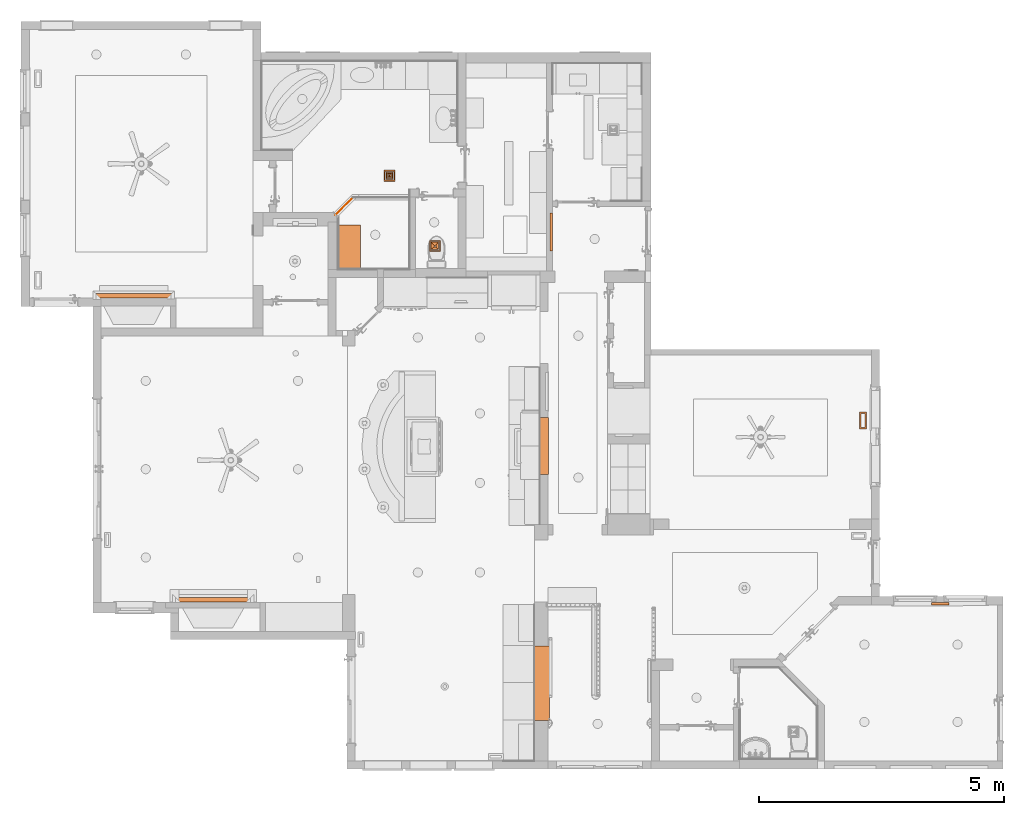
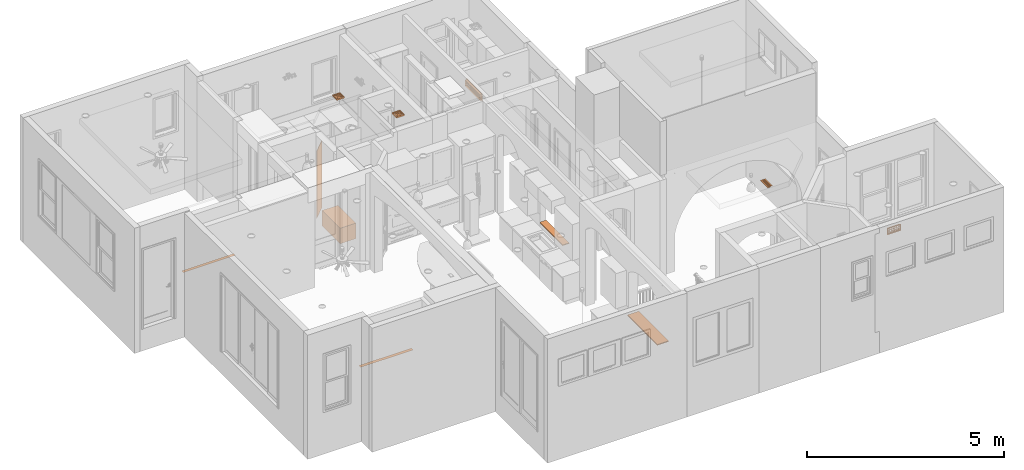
# One storey, part 60 of 77: 11 proxies.
"""IFC2X3 building model written with IfcOpenShell, lengths in inches."""

import ifcopenshell
import ifcopenshell.guid

model = None  # the IFC model being written
_history = None  # IfcOwnerHistory: only IFC2X3 demands one
_inside = {}  # id of a spatial element -> (the spatial element, [elements in it])
_under = {}  # id of a project, library or spatial element -> (it, [spatial elements below it])
_declared = {}  # id of a project -> (the project, [libraries it declares])
_typed = {}  # id of a type object -> (the type object, [elements of that type])
_made_of = {}  # id of a material, layer set ... -> (it, [elements and type objects made of it])


def new_model(schema):
    """Start an empty IFC model of exactly this schema.

    Asked for "IFC4X3", IfcOpenShell would pick the latest addendum, in which some entities
    have other attributes; the version numbers below select the first issue.
    IFC2X3 requires an IfcOwnerHistory on every rooted entity: one is made here for all.
    """
    global model, _history
    if schema == "IFC4X3":
        model = ifcopenshell.file(schema_version=(4, 3, 0, 0))
    else:
        model = ifcopenshell.file(schema=schema)
    _inside.clear()
    _under.clear()
    _declared.clear()
    _typed.clear()
    _made_of.clear()
    _history = None
    if model.schema == "IFC2X3":
        org = make("IfcOrganization", Name="unknown")
        user = make(
            "IfcPersonAndOrganization",
            ThePerson=make("IfcPerson", FamilyName="unknown"),
            TheOrganization=org,
        )
        app = make(
            "IfcApplication",
            ApplicationDeveloper=org,
            Version="unknown",
            ApplicationFullName="unknown",
            ApplicationIdentifier="unknown",
        )
        _history = make(
            "IfcOwnerHistory",
            OwningUser=user,
            OwningApplication=app,
            ChangeAction="ADDED",
            CreationDate=0,
        )
    return model


def make(cls, **values):
    """One entity of the class cls with the attributes given. An attribute that is None is left unset."""
    return model.create_entity(
        cls, **{name: value for name, value in values.items() if value is not None}
    )


def entity(cls, *values):
    """Any entity or typed value of the class cls, its attributes in the order of the schema. None: left unset."""
    e = model.create_entity(cls)
    for i, value in enumerate(values):
        if value is not None:
            e[i] = value
    return e


def rooted(cls, **values):
    """An entity with a GlobalId (a new one), such as an element, a storey or a relation."""
    return make(cls, GlobalId=ifcopenshell.guid.new(), OwnerHistory=_history, **values)


def si_unit(unit_type, name, prefix=None):
    """IfcSIUnit, for example si_unit("LENGTHUNIT", "METRE", prefix="MILLI")."""
    return make("IfcSIUnit", UnitType=unit_type, Prefix=prefix, Name=name)


def converted_unit(unit_type, name, factor, base, dimensions=None, offset=None):
    """IfcConversionBasedUnit, such as the inch: factor (a typed value) times the base unit."""
    return make(
        "IfcConversionBasedUnit"
        if offset is None
        else "IfcConversionBasedUnitWithOffset",
        ConversionOffset=offset,
        Dimensions=None
        if dimensions is None
        else entity("IfcDimensionalExponents", *dimensions),
        UnitType=unit_type,
        Name=name,
        ConversionFactor=make(
            "IfcMeasureWithUnit", ValueComponent=factor, UnitComponent=base
        ),
    )


def derived_unit(unit_type, elements):
    """IfcDerivedUnit: a product of units, each with its exponent."""
    return make(
        "IfcDerivedUnit",
        Elements=[
            make("IfcDerivedUnitElement", Unit=unit, Exponent=power)
            for unit, power in elements
        ],
        UnitType=unit_type,
    )


def money_unit(currency):
    """IfcMonetaryUnit."""
    return make("IfcMonetaryUnit", Currency=currency)


def assignment(units):
    """IfcUnitAssignment: the units of a project."""
    return None if units is None else make("IfcUnitAssignment", Units=units)


def point(xyz):
    """IfcCartesianPoint."""
    return None if xyz is None else make("IfcCartesianPoint", Coordinates=xyz)


def direction(xyz):
    """IfcDirection."""
    return None if xyz is None else make("IfcDirection", DirectionRatios=xyz)


def frame(location, z_axis=None, x_axis=None):
    """IfcAxis2Placement3D, a coordinate frame: its origin and axes. An axis left out is left unset."""
    return make(
        "IfcAxis2Placement3D",
        Location=point(location),
        Axis=direction(z_axis),
        RefDirection=direction(x_axis),
    )


def origin_with_axes():
    """The frame at (0, 0, 0) with the z axis (0, 0, 1) and the x axis (1, 0, 0) written out."""
    return frame((0.0, 0.0, 0.0), z_axis=(0.0, 0.0, 1.0), x_axis=(1.0, 0.0, 0.0))


def place(relative_to, where):
    """IfcLocalPlacement: puts the frame where relative to a parent placement (None: the world)."""
    return make(
        "IfcLocalPlacement", PlacementRelTo=relative_to, RelativePlacement=where
    )


def context(
    kind, dimensions, precision=None, world=None, true_north=None, identifier=None
):
    """IfcGeometricRepresentationContext, for example the 3D "Model" context."""
    return make(
        "IfcGeometricRepresentationContext",
        ContextIdentifier=identifier,
        ContextType=kind,
        CoordinateSpaceDimension=dimensions,
        Precision=precision,
        WorldCoordinateSystem=world,
        TrueNorth=true_north,
    )


def subcontext(parent, identifier, kind, view, scale=None):
    """IfcGeometricRepresentationSubContext, for example "Body" below "Model"."""
    return make(
        "IfcGeometricRepresentationSubContext",
        ContextIdentifier=identifier,
        ContextType=kind,
        ParentContext=parent,
        TargetScale=scale,
        TargetView=view,
    )


def project(units=None, contexts=None):
    """IfcProject with its units and contexts."""
    return rooted(
        "IfcProject",
        Name="project",
        RepresentationContexts=contexts,
        UnitsInContext=assignment(units),
    )


def spatial(cls, under=None, at=None, **own):
    """A site, building, storey or space (cls), placed at a placement, below another one or the project."""
    s = rooted(cls, ObjectPlacement=at, **own)
    if under is not None:
        _under.setdefault(under.id(), (under, []))[1].append(s)
    return s


def faces_of(points, faces, orient=None, outer=None):
    """IfcFace entities. A face is a list of loops; a loop is a list of indices into points, from 0.

    orient and outer hold one flag for each loop. By default every Orientation is true, the
    first loop of a face is its IfcFaceOuterBound and the others are IfcFaceBound.
    """
    made = []
    for i, loops in enumerate(faces):
        bounds = []
        for j, loop in enumerate(loops):
            is_outer = j == 0 if outer is None else outer[i][j]
            bounds.append(
                make(
                    "IfcFaceOuterBound" if is_outer else "IfcFaceBound",
                    Bound=make("IfcPolyLoop", Polygon=[points[k] for k in loop]),
                    Orientation=True if orient is None else orient[i][j],
                )
            )
        made.append(make("IfcFace", Bounds=bounds))
    return made


def open_shell(faces, orient=None, outer=None):
    """The faces of one IfcOpenShell. surface_model builds it on its shared points."""
    return ("IfcOpenShell", faces, orient, outer)


def faceted_brep(points, faces, orient=None, outer=None, voids=None):
    """IfcFacetedBrep: a solid bounded by flat faces; with voids (closed shells), ...WithVoids."""
    shared = [point(p) for p in points]
    hull = make("IfcClosedShell", CfsFaces=faces_of(shared, faces, orient, outer))
    if voids is None:
        return make("IfcFacetedBrep", Outer=hull)
    return make(
        "IfcFacetedBrepWithVoids",
        Outer=hull,
        Voids=[
            make(cls, CfsFaces=faces_of(shared, fs, o, b)) for cls, fs, o, b in voids
        ],
    )


def surface_model(cls, points, shells):
    """IfcFaceBasedSurfaceModel or IfcShellBasedSurfaceModel (cls): surfaces that need not close."""
    shared = [point(p) for p in points]
    made = [make(c, CfsFaces=faces_of(shared, fs, o, b)) for c, fs, o, b in shells]
    if cls == "IfcFaceBasedSurfaceModel":
        return make(cls, FbsmFaces=made)
    return make(cls, SbsmBoundary=made)


def shape(context_of_items, identifier, shape_type, items):
    """IfcShapeRepresentation: the items that make up one representation, for example the "Body"."""
    return make(
        "IfcShapeRepresentation",
        ContextOfItems=context_of_items,
        RepresentationIdentifier=identifier,
        RepresentationType=shape_type,
        Items=items,
    )


def source(mapping_origin, context_of_items, identifier, shape_type, items):
    """IfcRepresentationMap: a shape defined once, which mapped items show again and again."""
    return make(
        "IfcRepresentationMap",
        MappingOrigin=mapping_origin,
        MappedRepresentation=shape(context_of_items, identifier, shape_type, items),
    )


def transform(
    local_origin,
    x_axis=None,
    y_axis=None,
    z_axis=None,
    scale=None,
    scale2=None,
    scale3=None,
    uniform=True,
):
    """IfcCartesianTransformationOperator3D, or its non-uniform kind. x_axis, y_axis, z_axis: its Axis1, 2, 3."""
    if uniform:
        return make(
            "IfcCartesianTransformationOperator3D",
            Axis1=direction(x_axis),
            Axis2=direction(y_axis),
            LocalOrigin=point(local_origin),
            Scale=scale,
            Axis3=direction(z_axis),
        )
    return make(
        "IfcCartesianTransformationOperator3DnonUniform",
        Axis1=direction(x_axis),
        Axis2=direction(y_axis),
        LocalOrigin=point(local_origin),
        Scale=scale,
        Axis3=direction(z_axis),
        Scale2=scale2,
        Scale3=scale3,
    )


def mapped(mapping_source, mapping_target):
    """IfcMappedItem: shows the shape of a source again, moved by a transform."""
    return make(
        "IfcMappedItem", MappingSource=mapping_source, MappingTarget=mapping_target
    )


def material(Name=None, Category=None):
    """IfcMaterial."""
    return make("IfcMaterial", Name=Name, Category=Category)


def made_of(thing, what):
    """Note that an element or type object is made of a material, layer set ...; save() writes the relation."""
    if what is not None:
        _made_of.setdefault(what.id(), (what, []))[1].append(thing)
    return thing


def type_object(cls, material=None, **own):
    """A type object (cls), such as IfcWallType, which elements share."""
    return made_of(rooted(cls, **own), material)


def element(
    cls,
    number,
    at=None,
    inside=None,
    cuts=None,
    type_object=None,
    material=None,
    context=None,
    identifier="Body",
    shape_type=None,
    held_by="IfcProductDefinitionShape",
    body=None,
    shapes=None,
    **own,
):
    """One element of the class cls, such as IfcWall. Its Tag is "e" and its number.

    at: its placement. inside: the storey or other place that contains it. cuts: it is an
    opening in that element (IfcRelVoidsElement). A single representation is given by context,
    identifier, shape_type and body (its items); several are given by shapes. held_by: the class
    of the entity that holds the representations. save() writes the other relations.
    """
    e = rooted(cls, Tag="e%d" % number, ObjectPlacement=at, **own)
    if body is not None:
        shapes = [shape(context, identifier, shape_type, body)]
    if shapes is not None:
        e.Representation = make(held_by, Representations=shapes)
    if inside is not None:
        _inside.setdefault(inside.id(), (inside, []))[1].append(e)
    if cuts is not None:
        rooted(
            "IfcRelVoidsElement", RelatingBuildingElement=cuts, RelatedOpeningElement=e
        )
    if type_object is not None:
        _typed.setdefault(type_object.id(), (type_object, []))[1].append(e)
    return made_of(e, material)


def aggregate(whole, parts):
    """IfcRelAggregates: a whole, such as a stair, and the parts it consists of."""
    return rooted("IfcRelAggregates", RelatingObject=whole, RelatedObjects=parts)


def save(model, path):
    """Write the relations noted so far, then the file.

    IfcRelAggregates (storeys below a building ...), IfcRelContainedInSpatialStructure (elements
    in a storey), IfcRelDefinesByType, IfcRelAssociatesMaterial and IfcRelDeclares: one each for
    every whole, place, type object, material and project.
    """
    for whole, parts in _under.values():
        aggregate(whole, parts)
    for where, things in _inside.values():
        rooted(
            "IfcRelContainedInSpatialStructure",
            RelatedElements=things,
            RelatingStructure=where,
        )
    for kind, things in _typed.values():
        rooted("IfcRelDefinesByType", RelatedObjects=things, RelatingType=kind)
    for what, things in _made_of.values():
        rooted("IfcRelAssociatesMaterial", RelatedObjects=things, RelatingMaterial=what)
    for by, libraries in _declared.values():
        rooted("IfcRelDeclares", RelatingContext=by, RelatedDefinitions=libraries)
    model.write(path)


model = new_model("IFC2X3")

# Units and contexts
model_context = context("Model", 3, precision=0.000393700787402, world=origin_with_axes(), true_north=direction((0.0, 1.0)))
body_context = subcontext(model_context, "Body", "Model", "MODEL_VIEW")
ifc_project = project(units=[converted_unit("LENGTHUNIT", "INCH", entity("IfcPositiveLengthMeasure", 0.0254), si_unit("LENGTHUNIT", "METRE"), dimensions=[1, 0, 0, 0, 0, 0, 0]), converted_unit("AREAUNIT", "SQUARE_FOOT", entity("IfcPositiveLengthMeasure", 0.09290304), si_unit("AREAUNIT", "SQUARE_METRE"), dimensions=[2, 0, 0, 0, 0, 0, 0]), si_unit("PLANEANGLEUNIT", "RADIAN"), si_unit("SOLIDANGLEUNIT", "STERADIAN"), money_unit("USD"), converted_unit("TIMEUNIT", "Year", entity("IfcTimeMeasure", 31556926.0), si_unit("TIMEUNIT", "SECOND"), dimensions=[0, 0, 1, 0, 0, 0, 0]), si_unit("MASSUNIT", "GRAM", prefix="KILO"), si_unit("THERMODYNAMICTEMPERATUREUNIT", "DEGREE_CELSIUS"), si_unit("LUMINOUSINTENSITYUNIT", "LUMEN"), si_unit("ENERGYUNIT", "JOULE", prefix="MEGA"), derived_unit("THERMALCONDUCTANCEUNIT", [(si_unit("POWERUNIT", "WATT"), 1), (si_unit("LENGTHUNIT", "METRE"), -1), (si_unit("THERMODYNAMICTEMPERATUREUNIT", "KELVIN"), -1)]), derived_unit("SPECIFICHEATCAPACITYUNIT", [(si_unit("ENERGYUNIT", "JOULE"), 1), (si_unit("MASSUNIT", "GRAM", prefix="KILO"), -1), (si_unit("THERMODYNAMICTEMPERATUREUNIT", "KELVIN"), -1)]), derived_unit("MASSDENSITYUNIT", [(si_unit("MASSUNIT", "GRAM", prefix="KILO"), 1), (si_unit("VOLUMEUNIT", "CUBIC_METRE"), -1)])], contexts=[model_context])

# Site, building, storey
site_placement = place(None, origin_with_axes())
site = spatial("IfcSite", under=ifc_project, at=site_placement, Name="Site", CompositionType="ELEMENT")
building_placement = place(site_placement, origin_with_axes())
building = spatial("IfcBuilding", under=site, at=building_placement, Name="Building", CompositionType="ELEMENT")
storey_placement = place(building_placement, frame((0.0, 0.0, 127.952755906), z_axis=(0.0, 0.0, 1.0), x_axis=(1.0, 0.0, 0.0)))
storey = spatial("IfcBuildingStorey", under=building, at=storey_placement, Name="Second Floor", CompositionType="ELEMENT", Elevation=127.953)

# Proxies
ifc_material_1 = material(Name="Generic - Structural")
building_element_proxy_type_1 = type_object("IfcBuildingElementProxyType", Name="Generic - Structural", PredefinedType="NOTDEFINED")
proxy_1_placement = place(storey_placement, frame((1604.85598584, 147.427820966, 57.0000149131), z_axis=(0.0, 0.0, 1.0), x_axis=(1.0, 0.0, 0.0)))
element("IfcBuildingElementProxy", 1, at=proxy_1_placement, inside=storey, type_object=building_element_proxy_type_1, material=ifc_material_1, Name="MO-06", context=body_context, shape_type="SurfaceModel", body=[
    surface_model("IfcShellBasedSurfaceModel", [(-1260.51987451, 3.76472880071, 0.0), (-1260.51987468, 0.0, 0.0), (-1200.0, 0.0, 0.0), (-1200.03504581, 3.76472880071, 0.0)], [open_shell([[[0, 1, 2, 3]]])]),
])
proxy_2_placement = place(storey_placement, frame((1540.85096404, 395.421903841, 46.9355534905), z_axis=(0.0, 0.0, 1.0), x_axis=(1.0, 0.0, 0.0)))
element("IfcBuildingElementProxy", 2, at=proxy_2_placement, inside=storey, type_object=building_element_proxy_type_1, material=ifc_material_1, Name="MO-14", context=body_context, shape_type="SurfaceModel", body=[
    surface_model("IfcShellBasedSurfaceModel", [(-1260.4848287, 0.0, 0.0), (-1260.48482886, -3.51473153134, 0.0), (-1199.96728141, -3.51473153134, 0.0), (-1200.0, 0.0, 0.0)], [open_shell([[[0, 1, 2, 3]]])]),
])
building_element_proxy_type_2 = type_object("IfcBuildingElementProxyType", Name="Rect Floor Register 25", PredefinedType="NOTDEFINED")
shared_shape_1 = source(origin_with_axes(), body_context, "Body", "SurfaceModel", [
    faceted_brep([(6.98818897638, 2.95669291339, 0.0), (-6.98818897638, 2.95669291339, 0.0), (-6.98818897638, 2.95669291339, 0.196850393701), (6.98818897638, 2.95669291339, 0.196850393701), (6.98818897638, -2.95669291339, 0.0), (-6.98818897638, -2.95669291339, 0.0), (5.61023622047, 1.57874015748, 0.0), (-5.61023622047, 1.57874015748, 0.0), (-5.61023622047, -1.57874015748, 0.0), (5.61023622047, -1.57874015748, 0.0), (-6.98818897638, -2.95669291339, 0.196850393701), (6.98818897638, -2.95669291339, 0.196850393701), (5.61023622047, 1.57874015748, 0.196850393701), (5.61023622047, -1.57874015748, 0.196850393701), (-5.61023622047, -1.57874015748, 0.196850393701), (-5.61023622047, 1.57874015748, 0.196850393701)], [[[0, 1, 2, 3]], [[0, 4, 5, 1], [6, 7, 8, 9]], [[1, 5, 10, 2]], [[3, 2, 10, 11], [12, 13, 14, 15]], [[4, 0, 3, 11]], [[5, 4, 11, 10]], [[7, 6, 12, 15]], [[8, 7, 15, 14]], [[9, 8, 14, 13]], [[6, 9, 13, 12]]]),
    surface_model("IfcShellBasedSurfaceModel", [(-5.57086614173, 1.47637795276, -0.787401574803), (5.57086614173, 1.47637795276, -0.787401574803), (5.57086614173, 1.47637795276, 0.196850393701), (-5.57086614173, 1.47637795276, 0.196850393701)], [open_shell([[[0, 1, 2, 3]]])]),
    surface_model("IfcShellBasedSurfaceModel", [(-5.57086614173, 0.492125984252, -0.787401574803), (5.57086614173, 0.492125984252, -0.787401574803), (5.57086614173, 0.492125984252, 0.196850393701), (-5.57086614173, 0.492125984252, 0.196850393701)], [open_shell([[[0, 1, 2, 3]]])]),
    surface_model("IfcShellBasedSurfaceModel", [(-5.57086614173, -0.492125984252, -0.787401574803), (5.57086614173, -0.492125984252, -0.787401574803), (5.57086614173, -0.492125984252, 0.196850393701), (-5.57086614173, -0.492125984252, 0.196850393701)], [open_shell([[[0, 1, 2, 3]]])]),
    surface_model("IfcShellBasedSurfaceModel", [(-5.57086614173, -1.47637795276, -0.787401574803), (5.57086614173, -1.47637795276, -0.787401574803), (5.57086614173, -1.47637795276, 0.196850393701), (-5.57086614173, -1.47637795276, 0.196850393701)], [open_shell([[[0, 1, 2, 3]]])]),
    surface_model("IfcShellBasedSurfaceModel", [(5.41338582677, -1.53937007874, -0.787401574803), (5.41338582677, 1.53937007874, -0.787401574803), (5.41338582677, 1.53937007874, 0.196850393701), (5.41338582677, -1.53937007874, 0.196850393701)], [open_shell([[[0, 1, 2, 3]]])]),
    surface_model("IfcShellBasedSurfaceModel", [(4.42913385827, -1.53937007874, -0.787401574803), (4.42913385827, 1.53937007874, -0.787401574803), (4.42913385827, 1.53937007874, 0.196850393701), (4.42913385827, -1.53937007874, 0.196850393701)], [open_shell([[[0, 1, 2, 3]]])]),
    surface_model("IfcShellBasedSurfaceModel", [(3.44488188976, -1.53937007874, -0.787401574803), (3.44488188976, 1.53937007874, -0.787401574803), (3.44488188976, 1.53937007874, 0.196850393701), (3.44488188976, -1.53937007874, 0.196850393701)], [open_shell([[[0, 1, 2, 3]]])]),
    surface_model("IfcShellBasedSurfaceModel", [(2.46062992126, -1.53937007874, -0.787401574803), (2.46062992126, 1.53937007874, -0.787401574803), (2.46062992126, 1.53937007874, 0.196850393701), (2.46062992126, -1.53937007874, 0.196850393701)], [open_shell([[[0, 1, 2, 3]]])]),
    surface_model("IfcShellBasedSurfaceModel", [(1.47637795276, -1.53937007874, -0.787401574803), (1.47637795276, 1.53937007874, -0.787401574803), (1.47637795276, 1.53937007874, 0.196850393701), (1.47637795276, -1.53937007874, 0.196850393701)], [open_shell([[[0, 1, 2, 3]]])]),
    surface_model("IfcShellBasedSurfaceModel", [(0.492125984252, -1.53937007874, -0.787401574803), (0.492125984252, 1.53937007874, -0.787401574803), (0.492125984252, 1.53937007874, 0.196850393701), (0.492125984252, -1.53937007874, 0.196850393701)], [open_shell([[[0, 1, 2, 3]]])]),
    surface_model("IfcShellBasedSurfaceModel", [(-0.492125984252, -1.53937007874, -0.787401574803), (-0.492125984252, 1.53937007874, -0.787401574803), (-0.492125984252, 1.53937007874, 0.196850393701), (-0.492125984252, -1.53937007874, 0.196850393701)], [open_shell([[[0, 1, 2, 3]]])]),
    surface_model("IfcShellBasedSurfaceModel", [(-1.47637795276, -1.53937007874, -0.787401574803), (-1.47637795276, 1.53937007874, -0.787401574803), (-1.47637795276, 1.53937007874, 0.196850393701), (-1.47637795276, -1.53937007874, 0.196850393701)], [open_shell([[[0, 1, 2, 3]]])]),
    surface_model("IfcShellBasedSurfaceModel", [(-2.46062992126, -1.53937007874, -0.787401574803), (-2.46062992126, 1.53937007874, -0.787401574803), (-2.46062992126, 1.53937007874, 0.196850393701), (-2.46062992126, -1.53937007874, 0.196850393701)], [open_shell([[[0, 1, 2, 3]]])]),
    surface_model("IfcShellBasedSurfaceModel", [(-3.44488188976, -1.53937007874, -0.787401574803), (-3.44488188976, 1.53937007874, -0.787401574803), (-3.44488188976, 1.53937007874, 0.196850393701), (-3.44488188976, -1.53937007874, 0.196850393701)], [open_shell([[[0, 1, 2, 3]]])]),
    surface_model("IfcShellBasedSurfaceModel", [(-4.42913385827, -1.53937007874, -0.787401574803), (-4.42913385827, 1.53937007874, -0.787401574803), (-4.42913385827, 1.53937007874, 0.196850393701), (-4.42913385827, -1.53937007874, 0.196850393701)], [open_shell([[[0, 1, 2, 3]]])]),
    surface_model("IfcShellBasedSurfaceModel", [(-5.41338582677, -1.53937007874, -0.787401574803), (-5.41338582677, 1.53937007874, -0.787401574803), (-5.41338582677, 1.53937007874, 0.196850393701), (-5.41338582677, -1.53937007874, 0.196850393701)], [open_shell([[[0, 1, 2, 3]]])]),
    surface_model("IfcShellBasedSurfaceModel", [(-5.61023622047, -1.57874015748, 0.0), (-5.61023622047, 1.57874015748, 0.0), (-5.61023622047, 1.57874015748, -1.96850393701), (-5.61023622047, -1.57874015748, -1.96850393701), (5.61023622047, 1.57874015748, 0.0), (5.61023622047, 1.57874015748, -1.96850393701), (5.61023622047, -1.57874015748, 0.0), (5.61023622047, -1.57874015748, -1.96850393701)], [open_shell([[[0, 1, 2, 3]], [[1, 4, 5, 2]], [[6, 0, 3, 7]], [[4, 6, 7, 5]]])]),
])
proxy_3_placement = place(storey_placement, frame((897.44492375, 293.395115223, 0.0), z_axis=(0.0, 0.0, 1.0), x_axis=(0.0, -1.0, 0.0)))
element("IfcBuildingElementProxy", 3, at=proxy_3_placement, inside=storey, type_object=building_element_proxy_type_2, Name="FU - 027", context=body_context, shape_type="MappedRepresentation", body=[
    mapped(shared_shape_1, transform((0.0, 0.0, 0.0))),
])
building_element_proxy_type_3 = type_object("IfcBuildingElementProxyType", Name="Sidewall Grille 25", PredefinedType="NOTDEFINED")
shared_shape_2 = source(origin_with_axes(), body_context, "Body", "SurfaceModel", [
    faceted_brep([(8.07775590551, -0.196850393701, -4.1092519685), (-8.07775590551, -0.196850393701, -4.1092519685), (-8.07775590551, 0.0, -4.1092519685), (8.07775590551, 0.0, -4.1092519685), (8.07775590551, -0.196850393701, 4.1092519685), (-8.07775590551, -0.196850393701, 4.1092519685), (7.09350393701, -0.196850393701, -3.125), (-7.09350393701, -0.196850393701, -3.125), (-7.09350393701, -0.196850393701, 3.125), (7.09350393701, -0.196850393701, 3.125), (-8.07775590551, 0.0, 4.1092519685), (8.07775590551, 0.0, 4.1092519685), (7.09350393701, 0.0, -3.125), (7.09350393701, 0.0, 3.125), (-7.09350393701, 0.0, 3.125), (-7.09350393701, 0.0, -3.125)], [[[0, 1, 2, 3]], [[0, 4, 5, 1], [6, 7, 8, 9]], [[1, 5, 10, 2]], [[3, 2, 10, 11], [12, 13, 14, 15]], [[4, 0, 3, 11]], [[5, 4, 11, 10]], [[7, 6, 12, 15]], [[8, 7, 15, 14]], [[9, 8, 14, 13]], [[6, 9, 13, 12]]]),
    surface_model("IfcShellBasedSurfaceModel", [(-7.05413385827, -0.196850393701, -2.95275590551), (7.05413385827, -0.196850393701, -2.95275590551), (7.05413385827, 0.787401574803, -2.95275590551), (-7.05413385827, 0.787401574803, -2.95275590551)], [open_shell([[[0, 1, 2, 3]]])]),
    surface_model("IfcShellBasedSurfaceModel", [(-7.05413385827, -0.196850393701, -0.984251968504), (7.05413385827, -0.196850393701, -0.984251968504), (7.05413385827, 0.787401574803, -0.984251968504), (-7.05413385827, 0.787401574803, -0.984251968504)], [open_shell([[[0, 1, 2, 3]]])]),
    surface_model("IfcShellBasedSurfaceModel", [(-7.05413385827, -0.196850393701, 0.984251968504), (7.05413385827, -0.196850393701, 0.984251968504), (7.05413385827, 0.787401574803, 0.984251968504), (-7.05413385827, 0.787401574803, 0.984251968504)], [open_shell([[[0, 1, 2, 3]]])]),
    surface_model("IfcShellBasedSurfaceModel", [(-7.05413385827, -0.196850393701, 2.95275590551), (7.05413385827, -0.196850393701, 2.95275590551), (7.05413385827, 0.787401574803, 2.95275590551), (-7.05413385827, 0.787401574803, 2.95275590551)], [open_shell([[[0, 1, 2, 3]]])]),
    surface_model("IfcShellBasedSurfaceModel", [(6.88976377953, -0.196850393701, 3.08562992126), (6.88976377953, -0.196850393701, -3.08562992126), (6.88976377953, 0.787401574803, -3.08562992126), (6.88976377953, 0.787401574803, 3.08562992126)], [open_shell([[[0, 1, 2, 3]]])]),
    surface_model("IfcShellBasedSurfaceModel", [(4.92125984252, -0.196850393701, 3.08562992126), (4.92125984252, -0.196850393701, -3.08562992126), (4.92125984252, 0.787401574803, -3.08562992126), (4.92125984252, 0.787401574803, 3.08562992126)], [open_shell([[[0, 1, 2, 3]]])]),
    surface_model("IfcShellBasedSurfaceModel", [(2.95275590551, -0.196850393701, 3.08562992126), (2.95275590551, -0.196850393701, -3.08562992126), (2.95275590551, 0.787401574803, -3.08562992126), (2.95275590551, 0.787401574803, 3.08562992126)], [open_shell([[[0, 1, 2, 3]]])]),
    surface_model("IfcShellBasedSurfaceModel", [(0.984251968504, -0.196850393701, 3.08562992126), (0.984251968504, -0.196850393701, -3.08562992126), (0.984251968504, 0.787401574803, -3.08562992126), (0.984251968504, 0.787401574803, 3.08562992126)], [open_shell([[[0, 1, 2, 3]]])]),
    surface_model("IfcShellBasedSurfaceModel", [(-0.984251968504, -0.196850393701, 3.08562992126), (-0.984251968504, -0.196850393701, -3.08562992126), (-0.984251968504, 0.787401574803, -3.08562992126), (-0.984251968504, 0.787401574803, 3.08562992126)], [open_shell([[[0, 1, 2, 3]]])]),
    surface_model("IfcShellBasedSurfaceModel", [(-2.95275590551, -0.196850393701, 3.08562992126), (-2.95275590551, -0.196850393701, -3.08562992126), (-2.95275590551, 0.787401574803, -3.08562992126), (-2.95275590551, 0.787401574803, 3.08562992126)], [open_shell([[[0, 1, 2, 3]]])]),
    surface_model("IfcShellBasedSurfaceModel", [(-4.92125984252, -0.196850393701, 3.08562992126), (-4.92125984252, -0.196850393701, -3.08562992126), (-4.92125984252, 0.787401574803, -3.08562992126), (-4.92125984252, 0.787401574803, 3.08562992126)], [open_shell([[[0, 1, 2, 3]]])]),
    surface_model("IfcShellBasedSurfaceModel", [(-6.88976377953, -0.196850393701, 3.08562992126), (-6.88976377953, -0.196850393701, -3.08562992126), (-6.88976377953, 0.787401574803, -3.08562992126), (-6.88976377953, 0.787401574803, 3.08562992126)], [open_shell([[[0, 1, 2, 3]]])]),
    surface_model("IfcShellBasedSurfaceModel", [(-7.09350393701, 0.0, -3.125), (-7.09350393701, 0.0, 3.125), (-7.09350393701, 1.96850393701, 3.125), (-7.09350393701, 1.96850393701, -3.125), (7.09350393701, 0.0, 3.125), (7.09350393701, 1.96850393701, 3.125), (7.09350393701, 0.0, -3.125), (7.09350393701, 1.96850393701, -3.125)], [open_shell([[[0, 1, 2, 3]], [[1, 4, 5, 2]], [[6, 0, 3, 7]], [[4, 6, 7, 5]]])]),
])
proxy_4_placement = place(storey_placement, frame((959.47961168, 145.15717231, 11.6092519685), z_axis=(0.0, 0.0, 1.0), x_axis=(1.0, 0.0, 0.0)))
element("IfcBuildingElementProxy", 4, at=proxy_4_placement, inside=storey, type_object=building_element_proxy_type_3, Name="FU - 004", context=body_context, shape_type="MappedRepresentation", body=[
    mapped(shared_shape_2, transform((0.0, 0.0, 0.0))),
])
ifc_material_2 = material(Name="GENERIC - PREFABRICATED")
building_element_proxy_type_4 = type_object("IfcBuildingElementProxyType", Name="GENERIC - PREFABRICATED", PredefinedType="NOTDEFINED")
proxy_5_placement = place(storey_placement, frame((1837.48964339, 295.901564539, 40.9448818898), z_axis=(0.0, 0.0, 1.0), x_axis=(1.0, 0.0, 0.0)))
element("IfcBuildingElementProxy", 5, at=proxy_5_placement, inside=storey, type_object=building_element_proxy_type_4, material=ifc_material_2, Name="MORPH-010", context=body_context, shape_type="Brep", body=[
    faceted_brep([(-1200.5, 0.0, 0.0), (-1200.5, -45.9943922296, 0.0), (-1200.5, -45.9943922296, 1.0), (-1200.5, 0.0, 1.0), (-1200.0, 0.0, 0.0), (-1193.0, 0.0, 0.0), (-1193.0, -45.9943922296, 0.0), (-1193.0, -45.9943922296, 1.0), (-1193.0, 0.0, 1.0), (-1200.0, 0.0, 1.0)], [[[0, 1, 2, 3]], [[1, 0, 4, 5, 6]], [[1, 6, 7, 2]], [[3, 2, 7, 8, 9]], [[0, 3, 9, 4]], [[5, 4, 9, 8]], [[6, 5, 8, 7]]]),
])
proxy_6_placement = place(storey_placement, frame((1832.48964339, 98.9328145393, 41.0), z_axis=(0.0, 0.0, 1.0), x_axis=(1.0, 0.0, 0.0)))
element("IfcBuildingElementProxy", 6, at=proxy_6_placement, inside=storey, type_object=building_element_proxy_type_4, material=ifc_material_2, Name="MORPH-010", context=body_context, shape_type="Brep", body=[
    faceted_brep([(-1200.5, -46.9943922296, 0.0), (-1200.5, -46.9943922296, 1.0), (-1200.5, 12.9016389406, 1.0), (-1200.5, 12.9016389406, 0.0), (-1187.49999998, -46.9943921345, 0.0), (-1187.49999998, -46.9943921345, 1.0), (-1187.49999998, 12.9045008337, 1.0), (-1187.49999998, 12.9045008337, 0.0)], [[[0, 1, 2, 3]], [[1, 0, 4]], [[2, 1, 5, 6]], [[3, 2, 7]], [[0, 3, 7, 4]], [[5, 1, 4]], [[5, 7, 6]], [[7, 2, 6]], [[5, 4, 7]]]),
])
building_element_proxy_type_5 = type_object("IfcBuildingElementProxyType", Name="Square Louver Face Ceiling Diffuser 25", PredefinedType="NOTDEFINED")
shared_shape_3 = source(origin_with_axes(), body_context, "Body", "SurfaceModel", [
    faceted_brep([(4.52755905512, 4.52755905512, 0.0), (-4.52755905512, 4.52755905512, 0.0), (-4.52755905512, 4.52755905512, 0.590551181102), (4.52755905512, 4.52755905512, 0.590551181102), (4.52755905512, -4.52755905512, 0.0), (-4.52755905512, -4.52755905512, 0.0), (3.54330708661, 3.54330708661, 0.0), (-3.54330708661, 3.54330708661, 0.0), (-3.54330708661, -3.54330708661, 0.0), (3.54330708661, -3.54330708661, 0.0), (-4.52755905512, -4.52755905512, 0.590551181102), (4.52755905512, -4.52755905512, 0.590551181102), (3.54330708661, 3.54330708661, 0.590551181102), (3.54330708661, -3.54330708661, 0.590551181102), (-3.54330708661, -3.54330708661, 0.590551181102), (-3.54330708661, 3.54330708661, 0.590551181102)], [[[0, 1, 2, 3]], [[0, 4, 5, 1], [6, 7, 8, 9]], [[1, 5, 10, 2]], [[3, 2, 10, 11], [12, 13, 14, 15]], [[4, 0, 3, 11]], [[5, 4, 11, 10]], [[7, 6, 12, 15]], [[8, 7, 15, 14]], [[9, 8, 14, 13]], [[6, 9, 13, 12]]]),
    surface_model("IfcShellBasedSurfaceModel", [(-4.52755905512, 4.52755905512, 0.590551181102), (-4.52755905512, -4.52755905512, 0.590551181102), (-4.48031496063, -4.48031496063, 1.1811023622), (-4.48031496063, 4.48031496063, 1.1811023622), (4.52755905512, -4.52755905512, 0.590551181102), (4.48031496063, -4.48031496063, 1.1811023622), (4.52755905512, 4.52755905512, 0.590551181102), (4.48031496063, 4.48031496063, 1.1811023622)], [open_shell([[[0, 1, 2, 3]], [[1, 4, 5, 2]], [[6, 0, 3, 7]], [[4, 6, 7, 5]]])]),
    faceted_brep([(0.590551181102, 0.590551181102, 0.0), (-0.590551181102, 0.590551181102, 0.0), (0.0, 0.0, 1.57480314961), (0.590551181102, -0.590551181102, 0.0), (-0.590551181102, -0.590551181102, 0.0)], [[[0, 1, 2]], [[0, 3, 4, 1]], [[1, 4, 2]], [[3, 0, 2]], [[4, 3, 2]]]),
    surface_model("IfcShellBasedSurfaceModel", [(1.1811023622, 1.1811023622, 0.0), (-1.1811023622, 1.1811023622, 0.0), (-0.708661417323, 0.708661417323, 1.57480314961), (0.708661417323, 0.708661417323, 1.57480314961), (-1.1811023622, -1.1811023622, 0.0), (-0.708661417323, -0.708661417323, 1.57480314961), (1.1811023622, -1.1811023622, 0.0), (0.708661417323, -0.708661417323, 1.57480314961)], [open_shell([[[0, 1, 2, 3]], [[1, 4, 5, 2]], [[6, 0, 3, 7]], [[4, 6, 7, 5]]])]),
    surface_model("IfcShellBasedSurfaceModel", [(1.77165354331, 1.77165354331, 0.0), (-1.77165354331, 1.77165354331, 0.0), (-1.29921259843, 1.29921259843, 1.57480314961), (1.29921259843, 1.29921259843, 1.57480314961), (-1.77165354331, -1.77165354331, 0.0), (-1.29921259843, -1.29921259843, 1.57480314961), (1.77165354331, -1.77165354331, 0.0), (1.29921259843, -1.29921259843, 1.57480314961)], [open_shell([[[0, 1, 2, 3]], [[1, 4, 5, 2]], [[6, 0, 3, 7]], [[4, 6, 7, 5]]])]),
    surface_model("IfcShellBasedSurfaceModel", [(2.36220472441, 2.36220472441, 0.0), (-2.36220472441, 2.36220472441, 0.0), (-1.88976377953, 1.88976377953, 1.57480314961), (1.88976377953, 1.88976377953, 1.57480314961), (-2.36220472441, -2.36220472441, 0.0), (-1.88976377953, -1.88976377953, 1.57480314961), (2.36220472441, -2.36220472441, 0.0), (1.88976377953, -1.88976377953, 1.57480314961)], [open_shell([[[0, 1, 2, 3]], [[1, 4, 5, 2]], [[6, 0, 3, 7]], [[4, 6, 7, 5]]])]),
    surface_model("IfcShellBasedSurfaceModel", [(2.95275590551, 2.95275590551, 0.0), (-2.95275590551, 2.95275590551, 0.0), (-2.48031496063, 2.48031496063, 1.57480314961), (2.48031496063, 2.48031496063, 1.57480314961), (-2.95275590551, -2.95275590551, 0.0), (-2.48031496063, -2.48031496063, 1.57480314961), (2.95275590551, -2.95275590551, 0.0), (2.48031496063, -2.48031496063, 1.57480314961)], [open_shell([[[0, 1, 2, 3]], [[1, 4, 5, 2]], [[6, 0, 3, 7]], [[4, 6, 7, 5]]])]),
    surface_model("IfcShellBasedSurfaceModel", [(4.48031496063, -4.48031496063, 1.1811023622), (4.48031496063, 4.48031496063, 1.1811023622), (4.48031496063, 4.48031496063, 1.6811023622), (4.48031496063, -4.48031496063, 1.6811023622), (-4.48031496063, 4.48031496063, 1.1811023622), (-4.48031496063, 4.48031496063, 1.6811023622), (-4.48031496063, -4.48031496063, 1.1811023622), (-4.48031496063, -4.48031496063, 1.6811023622)], [open_shell([[[0, 1, 2, 3]], [[1, 4, 5, 2]], [[6, 0, 3, 7]], [[4, 6, 7, 5]]])]),
])
for number, where, z_axis, x_axis, name in (
    (7, (516.46208434, 490.362844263, 119.0), (0.0, 0.0, 1.0), (1.0, 0.0, 0.0), "FU - 007"),
    (8, (552.962084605, 433.914670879, 119.0), (0.0, 0.0, 1.0), (1.0, 0.0, 0.0), "FU - 007"),
):
    element("IfcBuildingElementProxy", number, at=place(storey_placement, frame(where, z_axis=z_axis, x_axis=x_axis)), inside=storey, type_object=building_element_proxy_type_5, Name=name, context=body_context, shape_type="MappedRepresentation", body=[
        mapped(shared_shape_3, transform((0.0, 0.0, 0.0))),
    ])
ifc_material_3 = material(Name="Tile - Wall")
building_element_proxy_type_6 = type_object("IfcBuildingElementProxyType", Name="Tile - Wall", PredefinedType="NOTDEFINED")
proxy_7_placement = place(storey_placement, frame((1674.98964339, 414.908847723, 0.0), z_axis=(0.0, 0.0, 1.0), x_axis=(1.0, 0.0, 0.0)))
element("IfcBuildingElementProxy", 9, at=proxy_7_placement, inside=storey, type_object=building_element_proxy_type_6, material=ifc_material_3, Name="MORPH-008", context=body_context, shape_type="Brep", body=[
    faceted_brep([(-1200.0, 36.0000046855, 0.0), (-1200.0, 0.0, 0.0), (-1200.0, 0.0, 19.0), (-1200.0, 36.0000046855, 19.0), (-1182.00000234, 36.0091883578, 0.0), (-1181.981635, 0.00919304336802, 0.0), (-1181.981635, 0.00919304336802, 19.0), (-1182.00000234, 36.0091883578, 19.0)], [[[0, 1, 2, 3]], [[1, 0, 4, 5]], [[1, 5, 6, 2]], [[3, 2, 6, 7]], [[4, 0, 3, 7]], [[5, 4, 7, 6]]]),
])
ifc_material_4 = material(Name="Glass")
building_element_proxy_type_7 = type_object("IfcBuildingElementProxyType", Name="Glass", PredefinedType="NOTDEFINED")
proxy_8_placement = place(storey_placement, frame((1673.10882451, 458.569240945, 5.0), z_axis=(0.0, 0.0, 1.0), x_axis=(1.0, 0.0, 0.0)))
element("IfcBuildingElementProxy", 10, at=proxy_8_placement, inside=storey, type_object=building_element_proxy_type_7, material=ifc_material_4, Name="MORPH-009", context=body_context, shape_type="Brep", body=[
    faceted_brep([(-1200.30843181, 0.398843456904, 0.0), (-1199.95616056, 0.0440173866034, 0.0), (-1200.30843181, 0.398843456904, 82.0), (-1186.06525715, 14.6418496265, 0.0), (-1185.85786438, 14.1421356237, 0.0), (-1199.95616056, 0.0440173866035, 82.0), (-1186.06525715, 14.6418496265, 82.0), (-1185.85786438, 14.1421356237, 82.0)], [[[0, 1, 2]], [[1, 0, 3, 4]], [[2, 1, 5]], [[0, 2, 6, 3]], [[3, 6, 7, 4]], [[5, 1, 4, 7]], [[2, 5, 7, 6]]]),
])
shared_shape_4 = source(origin_with_axes(), body_context, "Body", "SurfaceModel", [
    faceted_brep([(16.1486220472, -0.196850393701, -4.6092519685), (-16.1486220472, -0.196850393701, -4.6092519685), (-16.1486220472, 0.0, -4.6092519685), (16.1486220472, 0.0, -4.6092519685), (16.1486220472, -0.196850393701, 4.6092519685), (-16.1486220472, -0.196850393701, 4.6092519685), (15.1643700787, -0.196850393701, -3.625), (-15.1643700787, -0.196850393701, -3.625), (-15.1643700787, -0.196850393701, 3.625), (15.1643700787, -0.196850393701, 3.625), (-16.1486220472, 0.0, 4.6092519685), (16.1486220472, 0.0, 4.6092519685), (15.1643700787, 0.0, -3.625), (15.1643700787, 0.0, 3.625), (-15.1643700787, 0.0, 3.625), (-15.1643700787, 0.0, -3.625)], [[[0, 1, 2, 3]], [[0, 4, 5, 1], [6, 7, 8, 9]], [[1, 5, 10, 2]], [[3, 2, 10, 11], [12, 13, 14, 15]], [[4, 0, 3, 11]], [[5, 4, 11, 10]], [[7, 6, 12, 15]], [[8, 7, 15, 14]], [[9, 8, 14, 13]], [[6, 9, 13, 12]]]),
    surface_model("IfcShellBasedSurfaceModel", [(-15.125, -0.196850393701, -2.95275590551), (15.125, -0.196850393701, -2.95275590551), (15.125, 0.787401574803, -2.95275590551), (-15.125, 0.787401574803, -2.95275590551)], [open_shell([[[0, 1, 2, 3]]])]),
    surface_model("IfcShellBasedSurfaceModel", [(-15.125, -0.196850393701, -0.984251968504), (15.125, -0.196850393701, -0.984251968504), (15.125, 0.787401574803, -0.984251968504), (-15.125, 0.787401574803, -0.984251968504)], [open_shell([[[0, 1, 2, 3]]])]),
    surface_model("IfcShellBasedSurfaceModel", [(-15.125, -0.196850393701, 0.984251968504), (15.125, -0.196850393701, 0.984251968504), (15.125, 0.787401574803, 0.984251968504), (-15.125, 0.787401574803, 0.984251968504)], [open_shell([[[0, 1, 2, 3]]])]),
    surface_model("IfcShellBasedSurfaceModel", [(-15.125, -0.196850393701, 2.95275590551), (15.125, -0.196850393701, 2.95275590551), (15.125, 0.787401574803, 2.95275590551), (-15.125, 0.787401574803, 2.95275590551)], [open_shell([[[0, 1, 2, 3]]])]),
    surface_model("IfcShellBasedSurfaceModel", [(14.7637795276, -0.196850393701, 3.58562992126), (14.7637795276, -0.196850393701, -3.58562992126), (14.7637795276, 0.787401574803, -3.58562992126), (14.7637795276, 0.787401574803, 3.58562992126)], [open_shell([[[0, 1, 2, 3]]])]),
    surface_model("IfcShellBasedSurfaceModel", [(12.7952755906, -0.196850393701, 3.58562992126), (12.7952755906, -0.196850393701, -3.58562992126), (12.7952755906, 0.787401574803, -3.58562992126), (12.7952755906, 0.787401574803, 3.58562992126)], [open_shell([[[0, 1, 2, 3]]])]),
    surface_model("IfcShellBasedSurfaceModel", [(10.8267716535, -0.196850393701, 3.58562992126), (10.8267716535, -0.196850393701, -3.58562992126), (10.8267716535, 0.787401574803, -3.58562992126), (10.8267716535, 0.787401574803, 3.58562992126)], [open_shell([[[0, 1, 2, 3]]])]),
    surface_model("IfcShellBasedSurfaceModel", [(8.85826771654, -0.196850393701, 3.58562992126), (8.85826771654, -0.196850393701, -3.58562992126), (8.85826771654, 0.787401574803, -3.58562992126), (8.85826771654, 0.787401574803, 3.58562992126)], [open_shell([[[0, 1, 2, 3]]])]),
    surface_model("IfcShellBasedSurfaceModel", [(6.88976377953, -0.196850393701, 3.58562992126), (6.88976377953, -0.196850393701, -3.58562992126), (6.88976377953, 0.787401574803, -3.58562992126), (6.88976377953, 0.787401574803, 3.58562992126)], [open_shell([[[0, 1, 2, 3]]])]),
    surface_model("IfcShellBasedSurfaceModel", [(4.92125984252, -0.196850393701, 3.58562992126), (4.92125984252, -0.196850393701, -3.58562992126), (4.92125984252, 0.787401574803, -3.58562992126), (4.92125984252, 0.787401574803, 3.58562992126)], [open_shell([[[0, 1, 2, 3]]])]),
    surface_model("IfcShellBasedSurfaceModel", [(2.95275590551, -0.196850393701, 3.58562992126), (2.95275590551, -0.196850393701, -3.58562992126), (2.95275590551, 0.787401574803, -3.58562992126), (2.95275590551, 0.787401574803, 3.58562992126)], [open_shell([[[0, 1, 2, 3]]])]),
    surface_model("IfcShellBasedSurfaceModel", [(0.984251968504, -0.196850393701, 3.58562992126), (0.984251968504, -0.196850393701, -3.58562992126), (0.984251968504, 0.787401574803, -3.58562992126), (0.984251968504, 0.787401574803, 3.58562992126)], [open_shell([[[0, 1, 2, 3]]])]),
    surface_model("IfcShellBasedSurfaceModel", [(-0.984251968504, -0.196850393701, 3.58562992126), (-0.984251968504, -0.196850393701, -3.58562992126), (-0.984251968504, 0.787401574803, -3.58562992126), (-0.984251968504, 0.787401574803, 3.58562992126)], [open_shell([[[0, 1, 2, 3]]])]),
    surface_model("IfcShellBasedSurfaceModel", [(-2.95275590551, -0.196850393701, 3.58562992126), (-2.95275590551, -0.196850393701, -3.58562992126), (-2.95275590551, 0.787401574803, -3.58562992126), (-2.95275590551, 0.787401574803, 3.58562992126)], [open_shell([[[0, 1, 2, 3]]])]),
    surface_model("IfcShellBasedSurfaceModel", [(-4.92125984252, -0.196850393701, 3.58562992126), (-4.92125984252, -0.196850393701, -3.58562992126), (-4.92125984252, 0.787401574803, -3.58562992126), (-4.92125984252, 0.787401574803, 3.58562992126)], [open_shell([[[0, 1, 2, 3]]])]),
    surface_model("IfcShellBasedSurfaceModel", [(-6.88976377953, -0.196850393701, 3.58562992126), (-6.88976377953, -0.196850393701, -3.58562992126), (-6.88976377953, 0.787401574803, -3.58562992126), (-6.88976377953, 0.787401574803, 3.58562992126)], [open_shell([[[0, 1, 2, 3]]])]),
    surface_model("IfcShellBasedSurfaceModel", [(-8.85826771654, -0.196850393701, 3.58562992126), (-8.85826771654, -0.196850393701, -3.58562992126), (-8.85826771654, 0.787401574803, -3.58562992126), (-8.85826771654, 0.787401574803, 3.58562992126)], [open_shell([[[0, 1, 2, 3]]])]),
    surface_model("IfcShellBasedSurfaceModel", [(-10.8267716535, -0.196850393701, 3.58562992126), (-10.8267716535, -0.196850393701, -3.58562992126), (-10.8267716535, 0.787401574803, -3.58562992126), (-10.8267716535, 0.787401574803, 3.58562992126)], [open_shell([[[0, 1, 2, 3]]])]),
    surface_model("IfcShellBasedSurfaceModel", [(-12.7952755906, -0.196850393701, 3.58562992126), (-12.7952755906, -0.196850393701, -3.58562992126), (-12.7952755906, 0.787401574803, -3.58562992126), (-12.7952755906, 0.787401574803, 3.58562992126)], [open_shell([[[0, 1, 2, 3]]])]),
    surface_model("IfcShellBasedSurfaceModel", [(-14.7637795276, -0.196850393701, 3.58562992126), (-14.7637795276, -0.196850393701, -3.58562992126), (-14.7637795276, 0.787401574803, -3.58562992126), (-14.7637795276, 0.787401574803, 3.58562992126)], [open_shell([[[0, 1, 2, 3]]])]),
    surface_model("IfcShellBasedSurfaceModel", [(-15.1643700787, 0.0, -3.625), (-15.1643700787, 0.0, 3.625), (-15.1643700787, 1.96850393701, 3.625), (-15.1643700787, 1.96850393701, -3.625), (15.1643700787, 0.0, 3.625), (15.1643700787, 1.96850393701, 3.625), (15.1643700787, 0.0, -3.625), (15.1643700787, 1.96850393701, -3.625)], [open_shell([[[0, 1, 2, 3]], [[1, 4, 5, 2]], [[6, 0, 3, 7]], [[4, 6, 7, 5]]])]),
])
proxy_9_placement = place(storey_placement, frame((647.489643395, 445.079242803, 109.609251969), z_axis=(0.0, 0.0, 1.0), x_axis=(0.0, 1.0, 0.0)))
element("IfcBuildingElementProxy", 11, at=proxy_9_placement, inside=storey, type_object=building_element_proxy_type_3, Name="FU - 004", context=body_context, shape_type="MappedRepresentation", body=[
    mapped(shared_shape_4, transform((0.0, 0.0, 0.0))),
])

save(model, "model.ifc")
